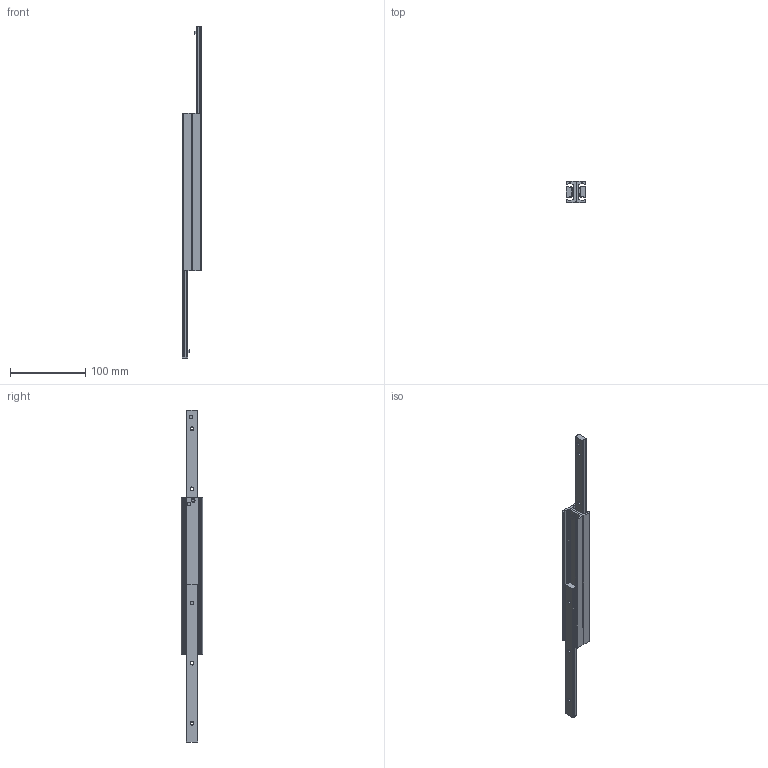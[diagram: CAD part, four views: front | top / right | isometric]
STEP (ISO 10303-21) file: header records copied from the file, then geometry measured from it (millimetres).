
FILE_DESCRIPTION( ( 'STEP AP214' ), '1' );
FILE_NAME( 'p:/temp/worker_93/temp/exporttempdir_5908_1314_UL24q/format_1/DEF28-210232.stp', '2020-03-20T19:42:18', ( 'License CC BY-ND 4.0' ), ( 'CADENAS' ), ' ', 'PARTsolutions', ' ' );
FILE_SCHEMA( ( 'AUTOMOTIVE_DESIGN { 1 0 10303 214 1 1 1 1 }' ) );
Length unit declared in the file: millimetre
Products named in the file (4): DEF28-210232; _282121023212-gf; _28212102321-ei; _282121023211-gf
Assembly tree (4 placements, depth 2):
  DEF28-210232
    _282121023212-gf
    _28212102321-ei  x2
    _282121023211-gf
Bounding box: 26 x 28 x 442 mm (x, y, z)
Volume: 102002.8 mm3; surface area: 61730.8 mm2
Topology: 4 solids, 4 shells, 168 faces, 430 edges, 282 vertices
Faces by surface type: plane 102, cylinder 50, cone 16
Full cylindrical faces by diameter (mm): 4.134 x6, 5 x2
Entity records: 4604 total; most frequent: DIRECTION 628, CARTESIAN_POINT 612, ORIENTED_EDGE 572, EDGE_CURVE 286, AXIS2_PLACEMENT_3D 216, VERTEX_POINT 200, LINE 196, VECTOR 196
